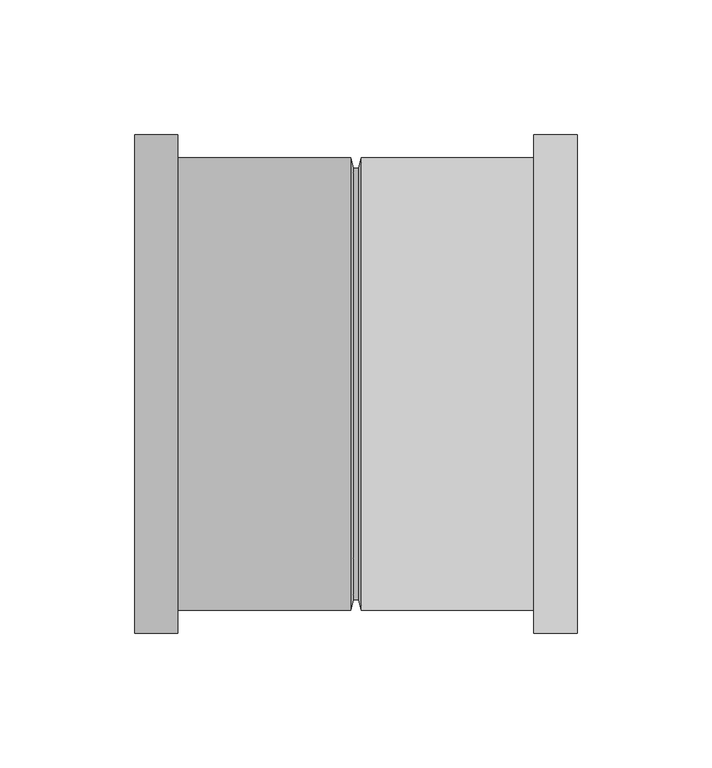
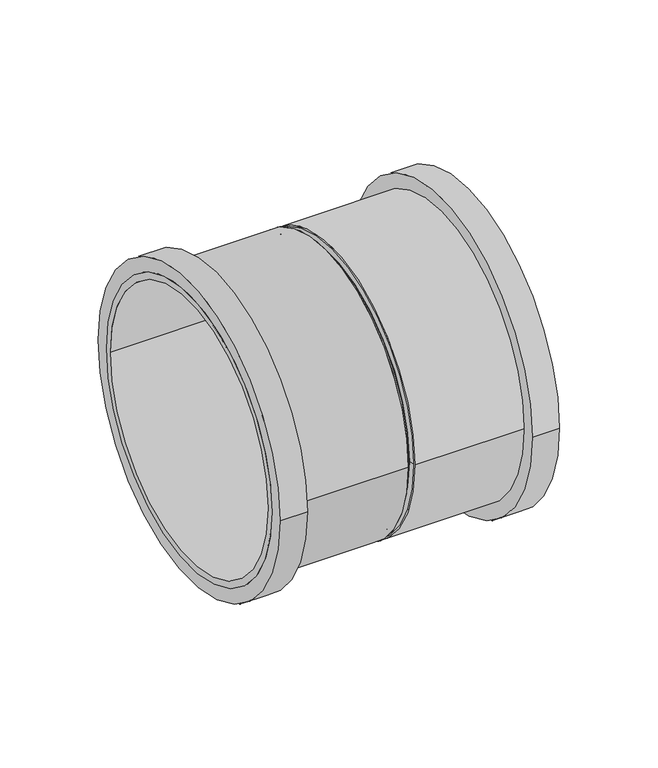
"""IFC4 building model written with IfcOpenShell, lengths in millimetres: pipe fitting geometry, Superdrain HTMM-Double socket : Superdrain HTMM-Double socket."""

from ifc_helpers import new_model, si_unit, point, frame, origin, origin_2d, place, context, project, spatial, polyline, circle_curve, trimmed, segment, composite_curve, outline, extrude, source, transform, mapped, element, save
from ifc_brep_helpers import plane_surface, revolved_surface, advanced_brep


def pipe_fitting_ad0c7a06(model_context):
    return source(origin(), model_context, "Body", "SolidModel", [
        extrude(outline(composite_curve([segment(trimmed(circle_curve(origin_2d(), 84.0), [point((84.0, 0.0))], [point((-84.0, 0.0))], False, "CARTESIAN"), True, "CONTINUOUS"), segment(trimmed(circle_curve(origin_2d(), 84.0), [point((-84.0, 0.0))], [point((84.0, 0.0))], False, "CARTESIAN"), True, "CONTINUOUS")], self_intersect=False), holes=[composite_curve([segment(trimmed(circle_curve(origin_2d(), 80.0), [point((80.0, 0.0))], [point((-80.0, 0.0))], True, "CARTESIAN"), True, "CONTINUOUS"), segment(trimmed(circle_curve(origin_2d(), 80.0), [point((-80.0, 0.0))], [point((80.0, 0.0))], True, "CARTESIAN"), True, "CONTINUOUS")], self_intersect=False)]), frame((2.0, 0.0, 0.0), z_axis=(1.0, 0.0, 0.0), x_axis=(0.0, 1.0, 0.0)), (0.0, 0.0, 1.0), 80.0),
        extrude(outline(composite_curve([segment(trimmed(circle_curve(origin_2d(), 92.4), [point((92.4, 0.0))], [point((-92.4, 0.0))], False, "CARTESIAN"), True, "CONTINUOUS"), segment(trimmed(circle_curve(origin_2d(), 92.4), [point((-92.4, 0.0))], [point((92.4, 0.0))], False, "CARTESIAN"), True, "CONTINUOUS")], self_intersect=False), holes=[composite_curve([segment(trimmed(circle_curve(origin_2d(), 80.0), [point((80.0, 0.0))], [point((-80.0, 0.0))], True, "CARTESIAN"), True, "CONTINUOUS"), segment(trimmed(circle_curve(origin_2d(), 80.0), [point((-80.0, 0.0))], [point((80.0, 0.0))], True, "CARTESIAN"), True, "CONTINUOUS")], self_intersect=False)]), frame((66.0, 0.0, 0.0), z_axis=(1.0, 0.0, 0.0), x_axis=(0.0, 1.0, 0.0)), (0.0, 0.0, 1.0), 16.0),
        advanced_brep(
        [(1.0, 80.0, 0.0), (1.0, -80.0, 0.0), (2.0, 84.0, 0.0), (2.0, -84.0, 0.0)],
        [
            (0, 1, circle_curve(frame((1.0, 0.0, 0.0), z_axis=(-1.0, 0.0, 0.0), x_axis=(0.0, 1.0, 0.0)), 80.0)),
            (1, 0, circle_curve(frame((1.0, 0.0, 0.0), z_axis=(-1.0, 0.0, 0.0), x_axis=(0.0, -1.0, 0.0)), 80.0)),
            (2, 3, circle_curve(frame((2.0, 0.0, 0.0), z_axis=(1.0, 0.0, 0.0), x_axis=(0.0, -1.0, 0.0)), 84.0)),
            (3, 2, circle_curve(frame((2.0, 0.0, 0.0), z_axis=(1.0, 0.0, 0.0), x_axis=(0.0, 1.0, 0.0)), 84.0)),
            (3, 1),
            (0, 2),
        ],
        [
            plane_surface(frame((1.0, 0.0, 0.0), z_axis=(-1.0, 0.0, 0.0), x_axis=(0.0, 0.0, -1.0))),
            plane_surface(frame((2.0, 0.0, 0.0), z_axis=(1.0, 0.0, 0.0), x_axis=(0.0, 0.0, -1.0))),
            revolved_surface(polyline([(1.0, 80.0, 0.0), (2.0, 84.0, 0.0)]), (-19.0, 0.0, 0.0), (1.0, 0.0, 0.0)),
            revolved_surface(polyline([(1.0, -80.0, 0.0), (2.0, -84.0, 0.0)]), (-19.0, 0.0, 0.0), (1.0, 0.0, 0.0)),
        ],
        [
            (0, [[1, 2]]),
            (1, [[3, 4]]),
            (2, [[-4, 5, -1, 6]]),
            (3, [[-3, -6, -2, -5]]),
        ],
    ),
        extrude(outline(composite_curve([segment(trimmed(circle_curve(origin_2d(), 84.0), [point((-84.0, 0.0))], [point((84.0, 0.0))], False, "CARTESIAN"), True, "CONTINUOUS"), segment(trimmed(circle_curve(origin_2d(), 84.0), [point((84.0, 0.0))], [point((-84.0, 0.0))], False, "CARTESIAN"), True, "CONTINUOUS")], self_intersect=False), holes=[composite_curve([segment(trimmed(circle_curve(origin_2d(), 80.0), [point((-80.0, 0.0))], [point((80.0, 0.0))], True, "CARTESIAN"), True, "CONTINUOUS"), segment(trimmed(circle_curve(origin_2d(), 80.0), [point((80.0, 0.0))], [point((-80.0, 0.0))], True, "CARTESIAN"), True, "CONTINUOUS")], self_intersect=False)]), frame((-82.0, 0.0, 0.0), z_axis=(1.0, 0.0, 0.0), x_axis=(0.0, 1.0, 0.0)), (0.0, 0.0, 1.0), 80.0),
        extrude(outline(composite_curve([segment(trimmed(circle_curve(origin_2d(), 92.4), [point((-92.4, 0.0))], [point((92.4, 0.0))], False, "CARTESIAN"), True, "CONTINUOUS"), segment(trimmed(circle_curve(origin_2d(), 92.4), [point((92.4, 0.0))], [point((-92.4, 0.0))], False, "CARTESIAN"), True, "CONTINUOUS")], self_intersect=False), holes=[composite_curve([segment(trimmed(circle_curve(origin_2d(), 80.0), [point((-80.0, 0.0))], [point((80.0, 0.0))], True, "CARTESIAN"), True, "CONTINUOUS"), segment(trimmed(circle_curve(origin_2d(), 80.0), [point((80.0, 0.0))], [point((-80.0, 0.0))], True, "CARTESIAN"), True, "CONTINUOUS")], self_intersect=False)]), frame((-82.0, 0.0, 0.0), z_axis=(1.0, 0.0, 0.0), x_axis=(0.0, 1.0, 0.0)), (0.0, 0.0, 1.0), 16.0),
        advanced_brep(
        [(-1.0, -80.0, 0.0), (-1.0, 80.0, 0.0), (-2.0, -84.0, 0.0), (-2.0, 84.0, 0.0)],
        [
            (0, 1, circle_curve(frame((-1.0, 0.0, 0.0), z_axis=(1.0, 0.0, 0.0), x_axis=(0.0, -1.0, 0.0)), 80.0)),
            (1, 0, circle_curve(frame((-1.0, 0.0, 0.0), z_axis=(1.0, 0.0, 0.0), x_axis=(0.0, 1.0, 0.0)), 80.0)),
            (2, 3, circle_curve(frame((-2.0, 0.0, 0.0), z_axis=(-1.0, 0.0, 0.0), x_axis=(0.0, 1.0, 0.0)), 84.0)),
            (3, 2, circle_curve(frame((-2.0, 0.0, 0.0), z_axis=(-1.0, 0.0, 0.0), x_axis=(0.0, -1.0, 0.0)), 84.0)),
            (3, 1),
            (0, 2),
        ],
        [
            plane_surface(frame((-1.0, 0.0, 0.0), z_axis=(1.0, 0.0, 0.0), x_axis=(0.0, 0.0, -1.0))),
            plane_surface(frame((-2.0, 0.0, 0.0), z_axis=(-1.0, 0.0, 0.0), x_axis=(0.0, 0.0, -1.0))),
            revolved_surface(polyline([(-1.0, -80.0, 0.0), (-2.0, -84.0, 0.0)]), (19.0, 0.0, 0.0), (-1.0, 0.0, 0.0)),
            revolved_surface(polyline([(-1.0, 80.0, 0.0), (-2.0, 84.0, 0.0)]), (19.0, 0.0, 0.0), (-1.0, 0.0, 0.0)),
        ],
        [
            (0, [[1, 2]]),
            (1, [[3, 4]]),
            (2, [[-4, 5, -1, 6]]),
            (3, [[-3, -6, -2, -5]]),
        ],
    ),
        extrude(outline(composite_curve([segment(trimmed(circle_curve(origin_2d(), 80.0), [point((-80.0, 0.0))], [point((80.0, 0.0))], False, "CARTESIAN"), True, "CONTINUOUS"), segment(trimmed(circle_curve(origin_2d(), 80.0), [point((80.0, 0.0))], [point((-80.0, 0.0))], False, "CARTESIAN"), True, "CONTINUOUS")], self_intersect=False)), frame((-2.0, 0.0, 0.0), z_axis=(1.0, 0.0, 0.0), x_axis=(0.0, 1.0, 0.0)), (0.0, 0.0, 1.0), 4.0),
    ])


if __name__ == "__main__":
    model = new_model("IFC4")
    model_context = context("Model", 3, world=origin())
    ifc_project = project(units=[si_unit("LENGTHUNIT", "METRE", prefix="MILLI")], contexts=[model_context])
    site = spatial("IfcSite", under=ifc_project)
    building = spatial("IfcBuilding", under=site)
    placement = place(None, origin())
    pipe_fitting_shape = pipe_fitting_ad0c7a06(model_context)
    element("IfcPipeFitting", 1, ObjectType="Superdrain HTMM-Double socket : Superdrain HTMM-Double socket", at=placement, inside=building, context=model_context, shape_type="MappedRepresentation", body=[
        mapped(pipe_fitting_shape, transform((0.0, 0.0, 0.0), x_axis=(1.0, 0.0, 0.0), y_axis=(0.0, 1.0, 0.0), z_axis=(0.0, 0.0, 1.0))),
    ])
    save(model, "model.ifc")
